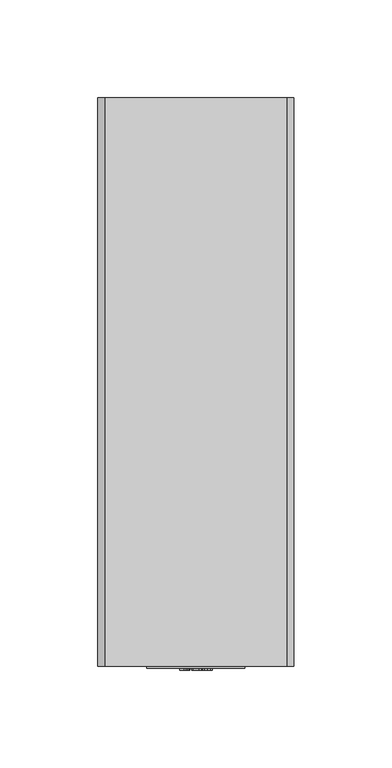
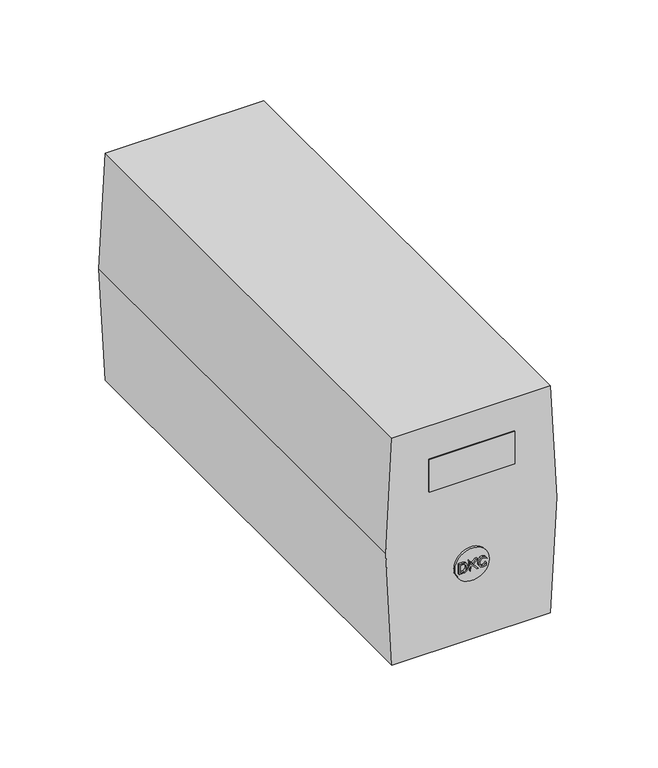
"""IFC4 building model written with IfcOpenShell, lengths in millimetres: proxy geometry, НВО_КНС_ИБПInfo_DKC : INFOLCD600I."""

from ifc_helpers import new_model, si_unit, point, frame, frame_2d, origin, place, context, project, spatial, polyline, circle_curve, trimmed, segment, composite_curve, outline, extrude, source, transform, mapped, element, save


def electrical_equipment_13bdf060(model_context):
    return source(origin(), model_context, "Body", "SweptSolid", [
        extrude(outline(polyline([(43.6666667, -8.1463789), (43.6666667, -5.967046), (43.7696736, -4.9980448), (44.6187453, -3.7273804), (45.4965117, -3.3153525), (46.7127296, -3.154956), (48.1459978, -3.391872), (49.1760674, -4.1055631), (49.6072251, -4.9914229), (49.6940453, -6.0671099), (49.6940453, -8.1463789), (43.6666667, -8.1463789)]), holes=[polyline([(44.420089, -7.3929566), (48.9406229, -7.3929566), (48.9406229, -6.0803536), (48.8199577, -5.0120243), (48.151884, -4.2299072), (46.7245018, -3.9083783), (45.5848034, -4.0724537), (44.5289821, -5.0900153), (44.420089, -6.0597522), (44.420089, -7.3929566)])]), frame((0.0, -2.0, 0.0), z_axis=(0.0, 1.0, 0.0), x_axis=(0.0, 0.0, 1.0)), (0.0, 0.0, 1.0), 6.0),
        extrude(outline(polyline([(43.6666667, -1.7422891), (45.7385781, -1.365578), (46.7068435, -0.3502237), (43.6666667, 1.9512461), (43.6666667, 2.8724226), (47.2159922, 0.183941), (49.6940453, 2.7782448), (49.6940453, 1.7246308), (46.7436317, -1.365578), (49.6940453, -2.1190003), (43.6666667, -1.7422891)])), frame((0.0, -2.0, 0.0), z_axis=(0.0, 1.0, 0.0), x_axis=(0.0, 0.0, 1.0)), (0.0, 0.0, 1.0), 6.0),
        extrude(outline(polyline([(45.8092114, 7.6754899), (44.6996793, 7.036111), (44.3259112, 5.8831689), (44.6003512, 4.8435343), (45.4295572, 4.1357294), (46.7274449, 3.9083783), (47.8472777, 4.1004127), (48.7125361, 4.7662791), (49.0348007, 5.944973), (48.744174, 6.9632704), (47.9973735, 8.3347345), (49.3188056, 7.4834555), (49.7882231, 5.9744036), (49.4254914, 4.5264201), (48.363784, 3.5118015), (46.7259733, 3.154956), (45.1146502, 3.4705987), (43.9683299, 4.3903037), (43.5724889, 5.9582168), (44.0956171, 7.5356948), (45.8092114, 7.6754899)])), frame((0.0, -2.0, 0.0), z_axis=(0.0, 1.0, 0.0), x_axis=(0.0, 0.0, 1.0)), (0.0, 0.0, 1.0), 6.0),
        extrude(outline(composite_curve([segment(trimmed(circle_curve(frame_2d((46.6666667, 0.0)), 10.0), [point((46.6666667, -10.0))], [point((46.6666667, 10.0))], False, "CARTESIAN"), True, "CONTINUOUS"), segment(trimmed(circle_curve(frame_2d((46.6666667, 0.0)), 10.0), [point((46.6666667, 10.0))], [point((46.6666667, -10.0))], False, "CARTESIAN"), True, "CONTINUOUS")], self_intersect=False)), frame((0.0, -1.0, 0.0), z_axis=(0.0, 1.0, 0.0), x_axis=(0.0, 0.0, 1.0)), (0.0, 0.0, 1.0), 10.0),
        extrude(outline(polyline([(0.0, -46.2634777), (0.0, 46.2634777), (70.0, 50.0), (140.0, 46.2634777), (140.0, -46.2634777), (70.0, -50.0), (0.0, -46.2634777)])), frame((0.0, 0.0, 0.0), z_axis=(0.0, 1.0, 0.0), x_axis=(0.0, 0.0, 1.0)), (0.0, 0.0, 1.0), 290.0),
        extrude(outline(polyline([(25.0, -1.0), (-25.0, -1.0), (-25.0, 0.0), (25.0, 0.0), (25.0, -1.0)])), frame((0.0, 0.0, 100.0), z_axis=(0.0, 0.0, 1.0), x_axis=(1.0, 0.0, 0.0)), (0.0, 0.0, 1.0), 20.0),
    ])


if __name__ == "__main__":
    model = new_model("IFC4")
    model_context = context("Model", 3, world=origin())
    ifc_project = project(units=[si_unit("LENGTHUNIT", "METRE", prefix="MILLI")], contexts=[model_context])
    site = spatial("IfcSite", under=ifc_project)
    building = spatial("IfcBuilding", under=site)
    placement = place(None, origin())
    electrical_equipment_shape = electrical_equipment_13bdf060(model_context)
    element("IfcBuildingElementProxy", 1, Name="НВО_КНС_ИБПInfo_DKC : INFOLCD600I", ObjectType="НВО_КНС_ИБПInfo_DKC : INFOLCD600I", at=placement, inside=building, context=model_context, shape_type="MappedRepresentation", body=[
        mapped(electrical_equipment_shape, transform((0.0, 0.0, 0.0), x_axis=(1.0, 0.0, 0.0), y_axis=(0.0, 1.0, 0.0), z_axis=(0.0, 0.0, 1.0))),
    ])
    save(model, "model.ifc")
